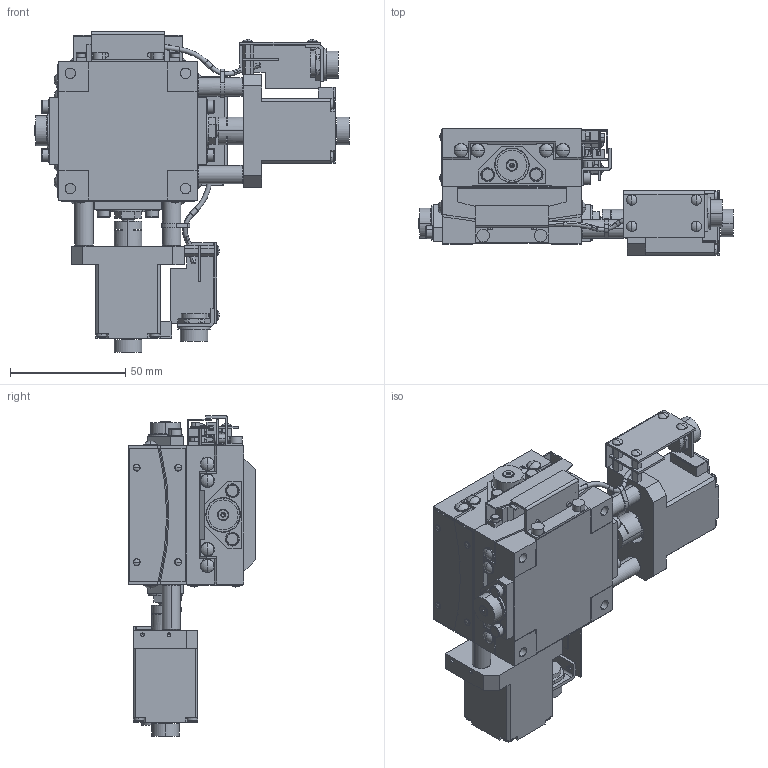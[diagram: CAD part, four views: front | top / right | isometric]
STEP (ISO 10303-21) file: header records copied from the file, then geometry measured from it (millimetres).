
FILE_DESCRIPTION (( 'STEP AP214' ), '1' );
FILE_NAME ('KAB06100M-RC.STEP', '2024-04-17T07:49:39', ( '' ), ( '' ), 'SwSTEP 2.0', 'SolidWorks 2017', '' );
FILE_SCHEMA (( 'AUTOMOTIVE_DESIGN' ));
Length unit declared in the file: millimetre
Products named in the file (9): KGB-BASE-06100-R; KGB-BASE-06125-R; KGB-TOP-06125-R; KGB06100T-RC_M_C; KGB-60-C-R; KAB06100M-RC; 60-M-12-R; KGB06125T-RC_M_C; KGB-TOP-06100-R
Assembly tree (10 placements, depth 3):
  KAB06100M-RC
    KGB06125T-RC_M_C
      KGB-BASE-06125-R
      KGB-TOP-06125-R
      KGB-60-C-R
      60-M-12-R
    KGB06100T-RC_M_C
      KGB-BASE-06100-R
      KGB-TOP-06100-R
      KGB-60-C-R
      60-M-12-R
Bounding box: 136.4 x 55 x 139 mm (x, y, z)
Volume: 269165.9 mm3; surface area: 98202.4 mm2
Topology: 8 solids, 70 shells, 2024 faces, 4822 edges, 3102 vertices
Faces by surface type: plane 840, cylinder 772, cone 228, torus 80, sphere 76, bspline 28
Entity records: 52136 total; most frequent: CARTESIAN_POINT 10235, DIRECTION 9226, ORIENTED_EDGE 8030, EDGE_CURVE 4015, AXIS2_PLACEMENT_3D 3596, VERTEX_POINT 2611, EDGE_LOOP 2042, LINE 2034
